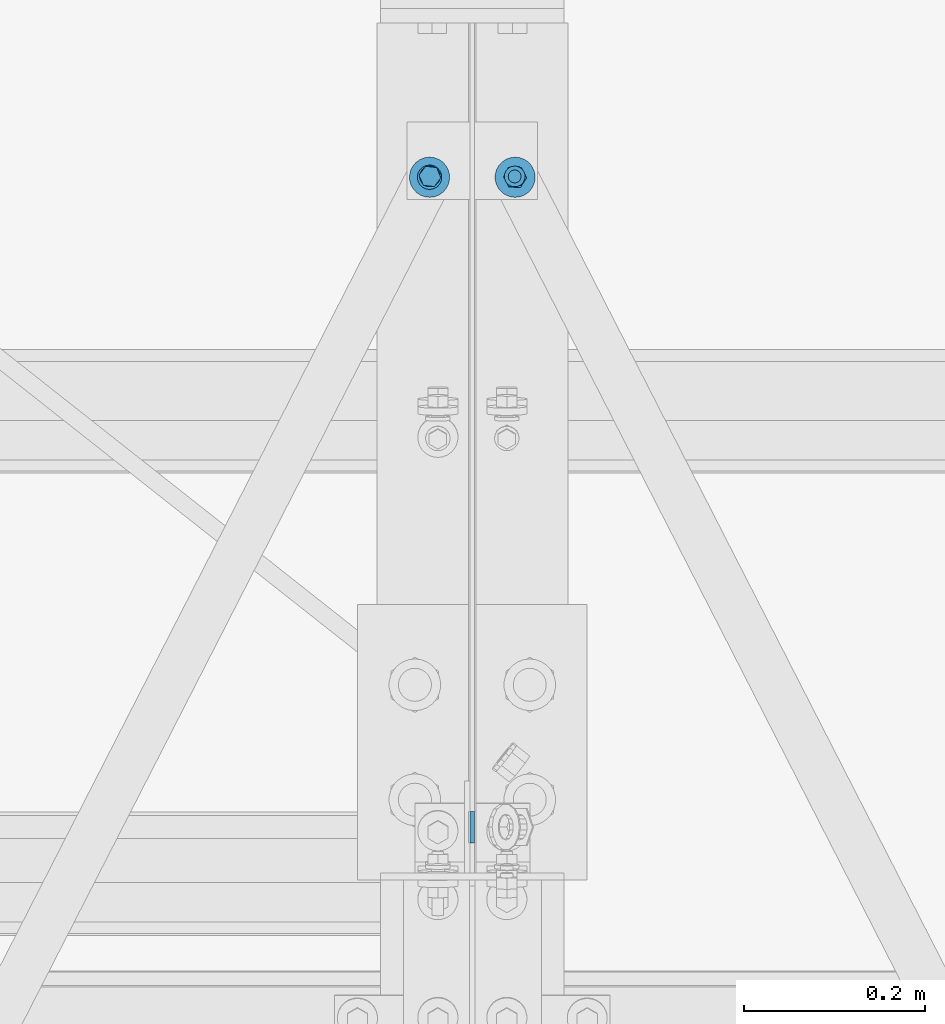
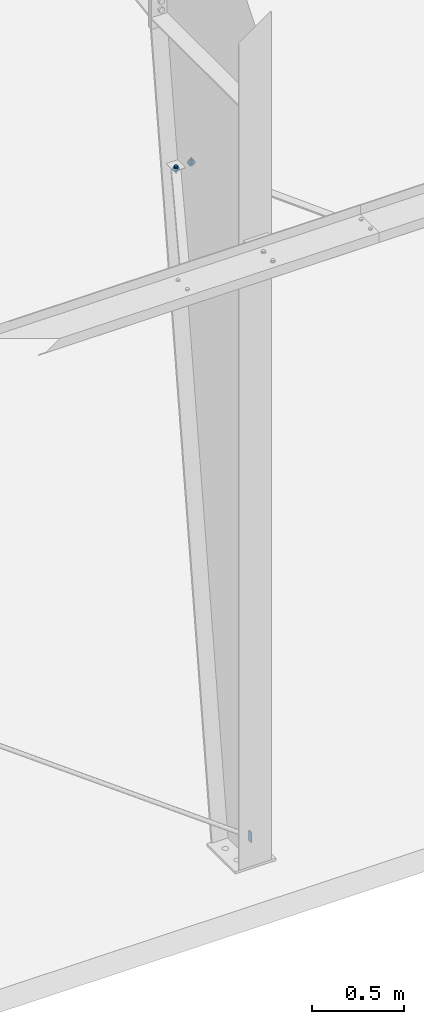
# One storey, part 125 of 185: 5 mechanical fasteners, 3 elements without a shape of their own.
"""IFC2X3 building model written with IfcOpenShell, lengths in millimetres."""

from ifc_helpers import new_model, si_unit, frame, frame_2d, origin_with_axes, origin_2d_with_axis, place, context, subcontext, project, spatial, polyline, circle_curve, parameter, trimmed, segment, composite_curve, circle, outline, extrude, source, transform, mapped, material, type_object, element, aggregate, save


model = new_model("IFC2X3")

# Units and contexts
model_context = context("Model", 3, precision=1e-05, world=origin_with_axes())
body_context = subcontext(model_context, "Body", "Model", "MODEL_VIEW")
ifc_project = project(units=[si_unit("LENGTHUNIT", "METRE", prefix="MILLI"), si_unit("AREAUNIT", "SQUARE_METRE"), si_unit("VOLUMEUNIT", "CUBIC_METRE"), si_unit("MASSUNIT", "GRAM", prefix="KILO"), si_unit("TIMEUNIT", "SECOND"), si_unit("PLANEANGLEUNIT", "RADIAN"), si_unit("SOLIDANGLEUNIT", "STERADIAN"), si_unit("THERMODYNAMICTEMPERATUREUNIT", "DEGREE_CELSIUS"), si_unit("LUMINOUSINTENSITYUNIT", "LUMEN")], contexts=[model_context])

# Site, building, storey
site_placement = place(None, origin_with_axes())
site = spatial("IfcSite", under=ifc_project, at=site_placement, Name="Undefined", CompositionType="ELEMENT")
building_placement = place(site_placement, origin_with_axes())
building = spatial("IfcBuilding", under=site, at=building_placement, Name="Undefined", CompositionType="ELEMENT")
storey_placement = place(building_placement, origin_with_axes())
storey = spatial("IfcBuildingStorey", under=building, at=storey_placement, Name="Undefined", CompositionType="ELEMENT", Elevation=0.0)

# Assembly, mechanical fastener
assembly_1_placement = place(storey_placement, origin_with_axes())
assembly_1 = element("IfcElementAssembly", 1, at=assembly_1_placement, inside=storey, Name="Steel Assembly", AssemblyPlace="NOTDEFINED", PredefinedType="RIGID_FRAME")
ifc_material_1 = material(Name="Undefined")
discrete_accessory_type = type_object("IfcDiscreteAccessoryType", Name="Bolt assembly")
shared_shape_1 = source(origin_with_axes(), body_context, "Body", "SweptSolid", [
    extrude(circle(Radius=7.14374971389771, at=origin_2d_with_axis()), frame((0.0, -1.59000001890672, 0.0), z_axis=(0.0, 1.0, 0.0), x_axis=(1.0, 0.0, 0.0)), (0.0, 0.0, 1.0), 1.7),
    extrude(outline(polyline([(10.9985221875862, 0.0), (5.4992610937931, 9.52499961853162), (-5.4992610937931, 9.52499961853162), (-10.9985221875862, 0.0), (-5.4992610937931, -9.52499961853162), (5.4992610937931, -9.52499961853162), (10.9985221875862, 0.0)])), frame((0.0, -15.0837496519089, 0.0), z_axis=(0.0, 1.0, 0.0), x_axis=(1.0, 0.0, 0.0)), (0.0, 0.0, 1.0), 9.5),
    extrude(circle(Radius=6.34999990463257, at=origin_2d_with_axis()), frame((0.0, -5.5587500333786, 0.0), z_axis=(0.0, 1.0, 0.0), x_axis=(1.0, 0.0, 0.0)), (0.0, 0.0, 1.0), 38.1),
    extrude(circle(Radius=13.4937496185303, at=origin_2d_with_axis()), frame((0.0, -5.5587500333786, 0.0), z_axis=(0.0, 1.0, 0.0), x_axis=(1.0, 0.0, 0.0)), (0.0, 0.0, 1.0), 4.0),
    extrude(circle(Radius=22.2250003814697, at=origin_2d_with_axis()), frame((0.0, 0.0, 0.0), z_axis=(0.0, 1.0, 0.0), x_axis=(1.0, 0.0, 0.0)), (0.0, 0.0, 1.0), 7.9),
    extrude(outline(polyline([(12.8316099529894, 0.0), (6.4158049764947, 11.1125001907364), (-6.4158049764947, 11.1125001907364), (-12.8316099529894, 0.0), (-6.4158049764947, -11.1125001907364), (6.4158049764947, -11.1125001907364), (12.8316099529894, 0.0)])), frame((0.0, 7.93750000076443, 0.0), z_axis=(0.0, 1.0, 0.0), x_axis=(1.0, 0.0, 0.0)), (0.0, 0.0, 1.0), 12.3),
])
mechanical_fastener_1_placement = place(assembly_1_placement, frame((14906.2866216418, 1081.76889073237, 4165.1649751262), z_axis=(-0.890301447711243, -0.455371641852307, 0.0), x_axis=(0.455371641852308, -0.890301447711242, 0.0)))
mechanical_fastener_1 = element("IfcMechanicalFastener", 2, at=mechanical_fastener_1_placement, type_object=discrete_accessory_type, material=ifc_material_1, Name="Bolt assembly", NominalDiameter=12.6999998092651, NominalLength=38.0999984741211, context=body_context, shape_type="MappedRepresentation", body=[
    mapped(shared_shape_1, transform((0.0, 0.0, 0.0))),
])
aggregate(assembly_1, [mechanical_fastener_1])

assembly_2_placement = place(storey_placement, origin_with_axes())
assembly_2 = element("IfcElementAssembly", 3, at=assembly_2_placement, inside=storey, Name="Steel Assembly", AssemblyPlace="NOTDEFINED", PredefinedType="RIGID_FRAME")
shared_shape_2 = source(origin_with_axes(), body_context, "Body", "SweptSolid", [
    extrude(circle(Radius=7.14374971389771, at=origin_2d_with_axis()), frame((0.0, 0.0, 0.0), z_axis=(0.0, 1.0, 0.0), x_axis=(1.0, 0.0, 0.0)), (0.0, 0.0, 1.0), 1.7),
    extrude(outline(polyline([(10.9985221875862, 0.0), (5.4992610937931, 9.52499961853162), (-5.4992610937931, 9.52499961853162), (-10.9985221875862, 0.0), (-5.4992610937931, -9.52499961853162), (5.4992610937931, -9.52499961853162), (10.9985221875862, 0.0)])), frame((0.0, -13.4937496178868, 0.0), z_axis=(0.0, 1.0, 0.0), x_axis=(1.0, 0.0, 0.0)), (0.0, 0.0, 1.0), 9.5),
    extrude(circle(Radius=6.34999990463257, at=origin_2d_with_axis()), frame((0.0, -3.96874999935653, 0.0), z_axis=(0.0, 1.0, 0.0), x_axis=(1.0, 0.0, 0.0)), (0.0, 0.0, 1.0), 38.1),
    extrude(circle(Radius=13.4937496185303, at=origin_2d_with_axis()), frame((0.0, -3.96874999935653, 0.0), z_axis=(0.0, 1.0, 0.0), x_axis=(1.0, 0.0, 0.0)), (0.0, 0.0, 1.0), 4.0),
    extrude(circle(Radius=22.2250003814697, at=origin_2d_with_axis()), frame((0.0, 1.5900000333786, 0.0), z_axis=(0.0, 1.0, 0.0), x_axis=(1.0, 0.0, 0.0)), (0.0, 0.0, 1.0), 7.9),
    extrude(outline(polyline([(12.8316099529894, 0.0), (6.4158049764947, 11.1125001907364), (-6.4158049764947, 11.1125001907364), (-12.8316099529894, 0.0), (-6.4158049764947, -11.1125001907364), (6.4158049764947, -11.1125001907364), (12.8316099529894, 0.0)])), frame((0.0, 9.5275000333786, 0.0), z_axis=(0.0, 1.0, 0.0), x_axis=(1.0, 0.0, 0.0)), (0.0, 0.0, 1.0), 12.3),
])
mechanical_fastener_2_placement = place(assembly_2_placement, frame((14811.7133783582, 1081.76889073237, 4165.1649751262), z_axis=(0.890301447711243, -0.455371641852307, 0.0), x_axis=(-0.455371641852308, -0.890301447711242, 0.0)))
mechanical_fastener_2 = element("IfcMechanicalFastener", 4, at=mechanical_fastener_2_placement, type_object=discrete_accessory_type, material=ifc_material_1, Name="Bolt assembly", NominalDiameter=12.6999998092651, NominalLength=38.0999984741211, context=body_context, shape_type="MappedRepresentation", body=[
    mapped(shared_shape_2, transform((0.0, 0.0, 0.0))),
])
aggregate(assembly_2, [mechanical_fastener_2])

# Assembly, mechanical fasteners
assembly_3_placement = place(storey_placement, origin_with_axes())
assembly_3 = element("IfcElementAssembly", 5, at=assembly_3_placement, inside=storey, Name="Steel Assembly", AssemblyPlace="NOTDEFINED", PredefinedType="RIGID_FRAME")
ifc_material_2 = material(Name="7990")
shared_shape_3 = source(origin_with_axes(), body_context, "Body", "SweptSolid", [
    extrude(circle(Radius=7.14374971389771, at=origin_2d_with_axis()), frame((0.0, -3.41600000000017, 0.0), z_axis=(0.0, 1.0, 0.0), x_axis=(1.0, 0.0, 0.0)), (0.0, 0.0, 1.0), 3.5),
    extrude(circle(Radius=11.4299998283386, at=origin_2d_with_axis()), frame((0.0, 0.0, 0.0), z_axis=(0.0, 1.0, 0.0), x_axis=(1.0, 0.0, 0.0)), (0.0, 0.0, 1.0), 4.2),
    extrude(outline(polyline([(12.171698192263, 0.0), (6.08584909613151, 10.5409998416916), (-6.08584909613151, 10.5409998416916), (-12.171698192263, 0.0), (-6.08584909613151, -10.5409998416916), (6.08584909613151, -10.5409998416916), (12.171698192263, 0.0)])), frame((0.0, 4.1909999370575, 0.0), z_axis=(0.0, 1.0, 0.0), x_axis=(1.0, 0.0, 0.0)), (0.0, 0.0, 1.0), 8.4),
])
mechanical_fastener_3_placement = place(assembly_3_placement, frame((14812.16875, 1082.65919218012, 4165.1649751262), z_axis=(0.921635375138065, 0.388057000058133, 0.0), x_axis=(-0.388057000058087, 0.921635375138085, 0.0)))
mechanical_fastener_3 = element("IfcMechanicalFastener", 6, at=mechanical_fastener_3_placement, type_object=discrete_accessory_type, material=ifc_material_2, Name="Bolt assembly", NominalDiameter=12.6999998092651, NominalLength=38.0999984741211, context=body_context, shape_type="MappedRepresentation", body=[
    mapped(shared_shape_3, transform((0.0, 0.0, 0.0))),
])
shared_shape_4 = source(origin_with_axes(), body_context, "Body", "SweptSolid", [
    extrude(circle(Radius=7.14374971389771, at=origin_2d_with_axis()), frame((0.0, 0.0, 0.0), z_axis=(0.0, 1.0, 0.0), x_axis=(1.0, 0.0, 0.0)), (0.0, 0.0, 1.0), 3.5),
    extrude(circle(Radius=11.4299998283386, at=origin_2d_with_axis()), frame((0.0, 3.41600000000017, 0.0), z_axis=(0.0, 1.0, 0.0), x_axis=(1.0, 0.0, 0.0)), (0.0, 0.0, 1.0), 4.2),
    extrude(outline(polyline([(12.171698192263, 0.0), (6.08584909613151, 10.5409998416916), (-6.08584909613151, 10.5409998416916), (-12.171698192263, 0.0), (-6.08584909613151, -10.5409998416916), (6.08584909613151, -10.5409998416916), (12.171698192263, 0.0)])), frame((0.0, 7.60699993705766, 0.0), z_axis=(0.0, 1.0, 0.0), x_axis=(1.0, 0.0, 0.0)), (0.0, 0.0, 1.0), 8.4),
])
mechanical_fastener_4_placement = place(assembly_3_placement, frame((14905.83125, 1082.65919218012, 4165.1649751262), z_axis=(-0.921635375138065, 0.388057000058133, 0.0), x_axis=(0.388057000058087, 0.921635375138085, 0.0)))
mechanical_fastener_4 = element("IfcMechanicalFastener", 7, at=mechanical_fastener_4_placement, type_object=discrete_accessory_type, material=ifc_material_2, Name="Bolt assembly", NominalDiameter=12.6999998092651, NominalLength=38.0999984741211, context=body_context, shape_type="MappedRepresentation", body=[
    mapped(shared_shape_4, transform((0.0, 0.0, 0.0))),
])
shared_shape_5 = source(origin_with_axes(), body_context, "Body", "SweptSolid", [
    extrude(outline(composite_curve([segment(polyline([(-23.8125, 17.4624996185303), (23.8125, 17.4624996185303)]), True, "CONTINUOUS"), segment(trimmed(circle_curve(frame_2d((23.8125, 4.76249980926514), x_axis=(0.0, 1.0)), 12.7), [parameter(0.0)], [parameter(4.71238898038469)], False, "PARAMETER"), True, "CONTINUOUS"), segment(polyline([(36.5124998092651, 4.76249980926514), (36.5124998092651, -4.76249980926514)]), True, "CONTINUOUS"), segment(trimmed(circle_curve(frame_2d((23.8125, -4.76249980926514), x_axis=(1.0, 0.0)), 12.7), [parameter(0.0)], [parameter(4.71238898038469)], False, "PARAMETER"), True, "CONTINUOUS"), segment(polyline([(23.8125, -17.4624996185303), (-23.8125, -17.4624996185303)]), True, "CONTINUOUS"), segment(trimmed(circle_curve(frame_2d((-23.8125, -4.76249980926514), x_axis=(0.0, -1.0)), 12.7), [parameter(0.0)], [parameter(4.71238898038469)], False, "PARAMETER"), True, "CONTINUOUS"), segment(polyline([(-36.5124998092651, -4.76249980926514), (-36.5124998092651, 4.76249980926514)]), True, "CONTINUOUS"), segment(trimmed(circle_curve(frame_2d((-23.8125, 4.76249980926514), x_axis=(-1.0, 0.0)), 12.7), [parameter(0.0)], [parameter(4.71238898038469)], False, "PARAMETER"), True, "DISCONTINUOUS")], self_intersect=False)), frame((0.0, -2.38125000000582, 0.0), z_axis=(0.0, 1.0, 0.0), x_axis=(1.0, 0.0, 0.0)), (0.0, 0.0, 1.0), 4.9),
])
mechanical_fastener_5_placement = place(assembly_3_placement, frame((14859.0, 363.473999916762, 168.274958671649), z_axis=(0.0, 1.0, 0.0), x_axis=(0.0, 0.0, 1.0)))
mechanical_fastener_5 = element("IfcMechanicalFastener", 8, at=mechanical_fastener_5_placement, type_object=discrete_accessory_type, material=ifc_material_1, Name="Bolt assembly", NominalDiameter=25.3999996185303, NominalLength=31.75, context=body_context, shape_type="MappedRepresentation", body=[
    mapped(shared_shape_5, transform((0.0, 0.0, 0.0))),
])
aggregate(assembly_3, [mechanical_fastener_5, mechanical_fastener_3, mechanical_fastener_4])

save(model, "model.ifc")
